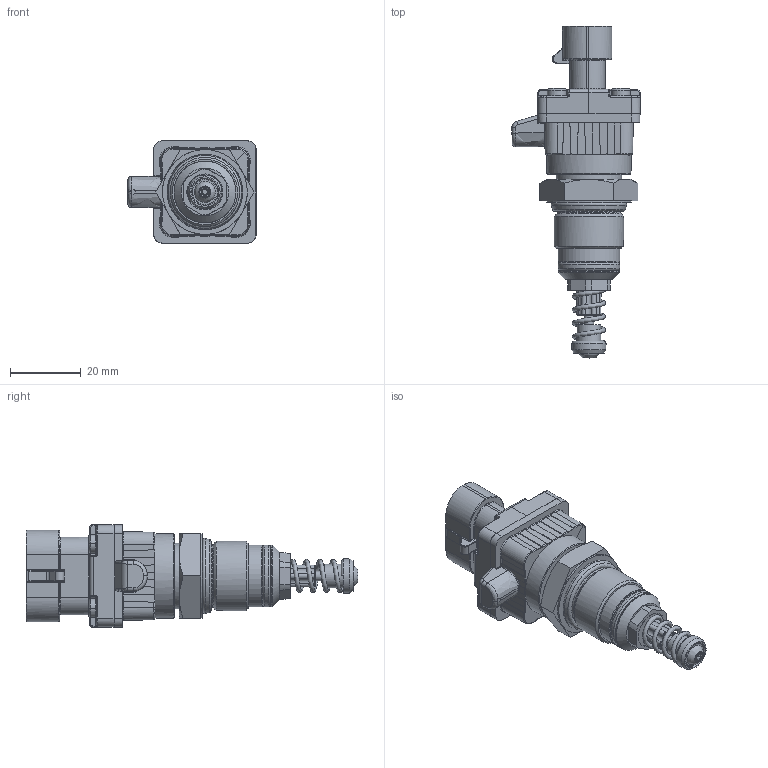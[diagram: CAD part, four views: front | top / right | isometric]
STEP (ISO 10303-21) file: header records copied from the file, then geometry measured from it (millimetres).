
FILE_DESCRIPTION((''),'2;1');
FILE_NAME('U:\Users\r.stiegele\30016801_DG062-30.stp', '2015-07-23T15:54:37',('User'),('SDRC'),'I-DEAS Master Series 9','UNIX', 'Yes');
FILE_SCHEMA(('AUTOMOTIVE_DESIGN { 1 0 10303 214 1 1 1 1 }'));
Length unit declared in the file: millimetre
Products named in the file (1): 30016801_DG062-30
Bounding box: 36.3 x 93.95 x 29 mm (x, y, z)
Volume: 28402.4 mm3; surface area: 10506.2 mm2
Topology: 3 solids, 5 shells, 1044 faces, 2726 edges, 1715 vertices
Faces by surface type: bspline 1044
Entity records: 42177 total; most frequent: CARTESIAN_POINT 26609, ORIENTED_EDGE 5418, EDGE_CURVE 2709, VERTEX_POINT 1708, B_SPLINE_CURVE_WITH_KNOTS 1633, EDGE_LOOP 1085, FACE_OUTER_BOUND 1044, ADVANCED_FACE 1044
